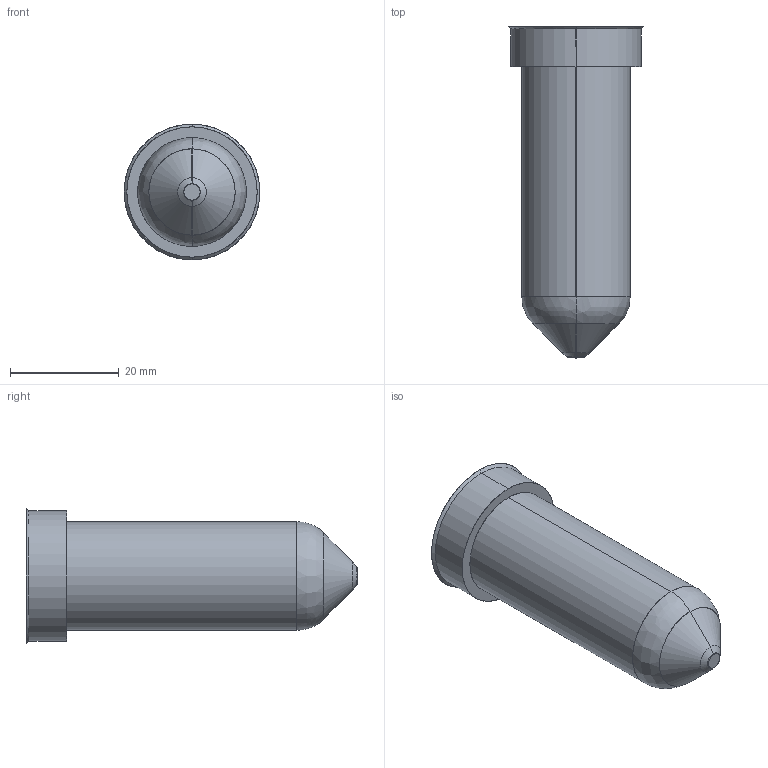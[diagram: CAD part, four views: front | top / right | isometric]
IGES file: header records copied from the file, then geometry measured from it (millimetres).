
Start section: SolidWorks IGES file using analytic representation for surfaces
Global section: file name: C:\Documents and Settings\ws-20\Desktop\TEM\Sede UGGS2530-M-0 C-61 L-93 Ød-3.0.IGS; native system: SolidWorks 2012; preprocessor: SolidWorks 2012; author: ws-20; date: 120516.094319; units: millimetre
Bounding box: 25 x 61.14 x 25 mm (x, y, z)
Surface area: 4472.5 mm2 (no closed solid volume)
Topology: 0 solids, 0 shells, 17 faces, 184 edges, 184 vertices
Faces by surface type: revolution 12, bspline 5
